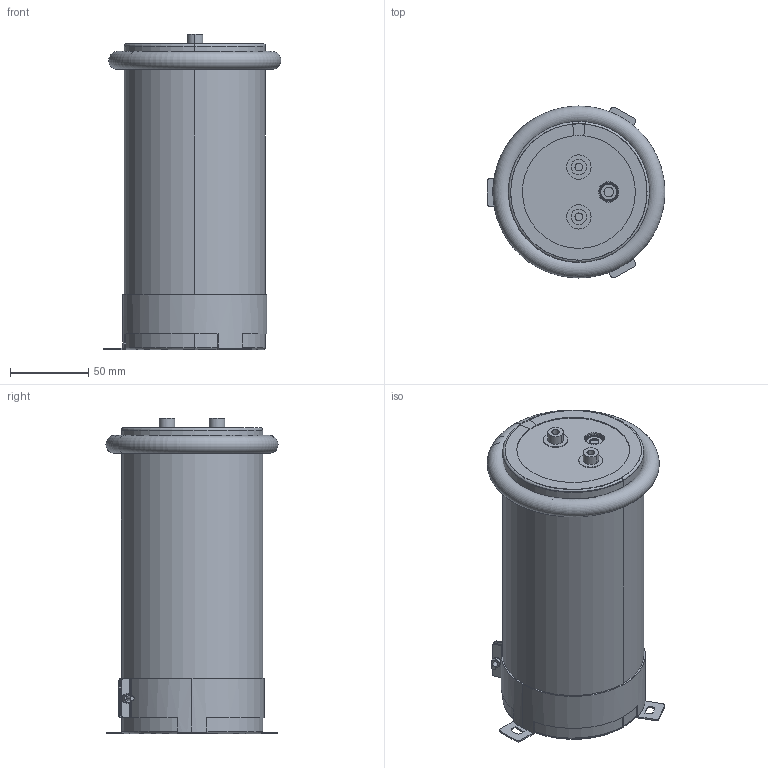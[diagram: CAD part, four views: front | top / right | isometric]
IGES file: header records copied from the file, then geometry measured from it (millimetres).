
Start section: 3D InterOp IGES (v. 2019 1.0.2), Spatial Corp. Copyright (c) 1999-2017.
Global section: file name: 90x195_Screw.igs; native system: Spatial Corp.; preprocessor: 3D InterOp ACIS/IGES; author: Noname; organization: Noname; date: 20220314.174808; units: millimetre
Bounding box: 113.35 x 109.7 x 201 mm (x, y, z)
Volume: 1585224 mm3; surface area: 345255.4 mm2
Topology: 9 solids, 9 shells, 352 faces, 953 edges, 591 vertices
Faces by surface type: plane 112, cylinder 110, torus 90, cone 38, sphere 2
